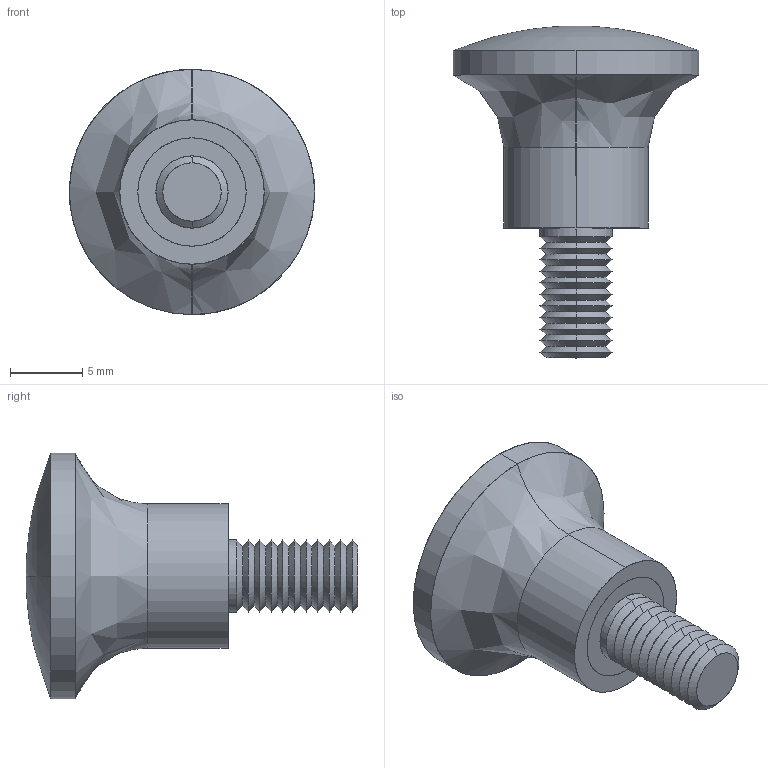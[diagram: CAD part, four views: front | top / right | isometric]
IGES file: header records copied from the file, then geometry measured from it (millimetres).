
Start section: SolidWorks IGES file using analytic representation for surfaces
Global section: file name: C:\Users\IanO\Desktop\Temp File\Process pending\73200_v2\73200_v2_20171103_IGES\73200.W0117.igs; native system: SolidWorks 2017; preprocessor: SolidWorks 2017; author: IanO; date: 171103.111745; units: millimetre
Bounding box: 17 x 23 x 17 mm (x, y, z)
Surface area: 1562.7 mm2 (no closed solid volume)
Topology: 0 solids, 0 shells, 75 faces, 692 edges, 687 vertices
Faces by surface type: revolution 66, bspline 9
